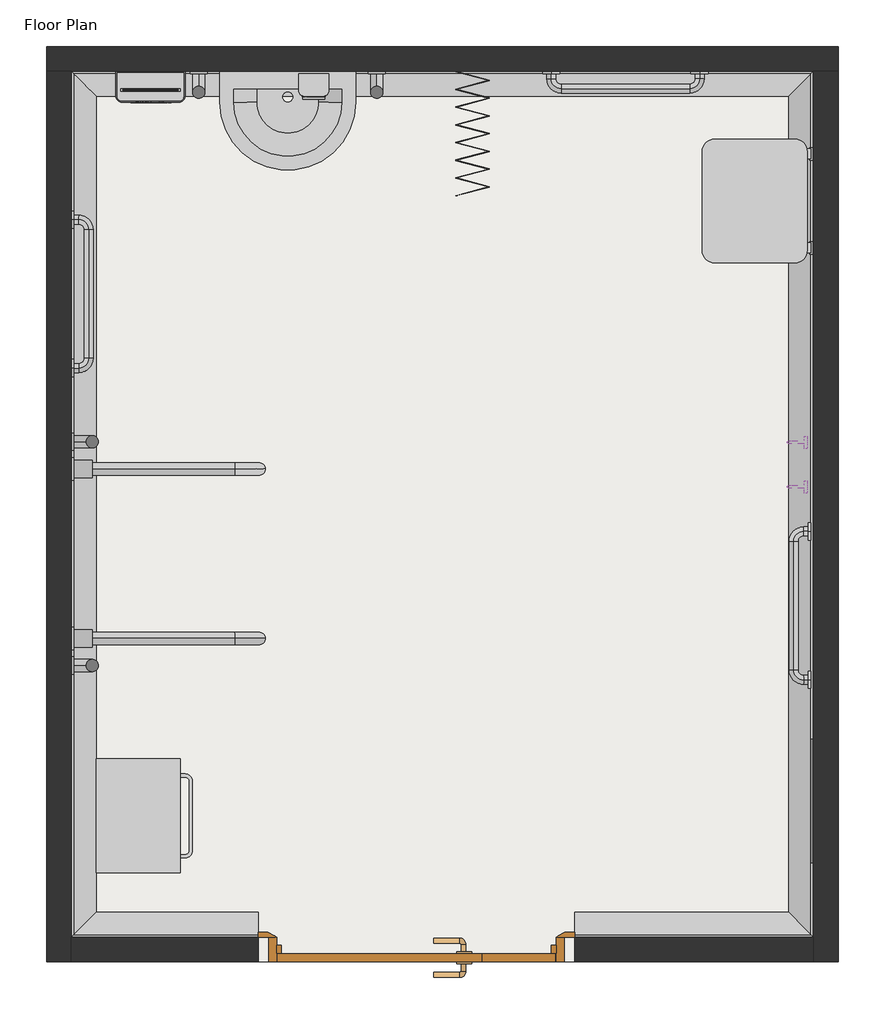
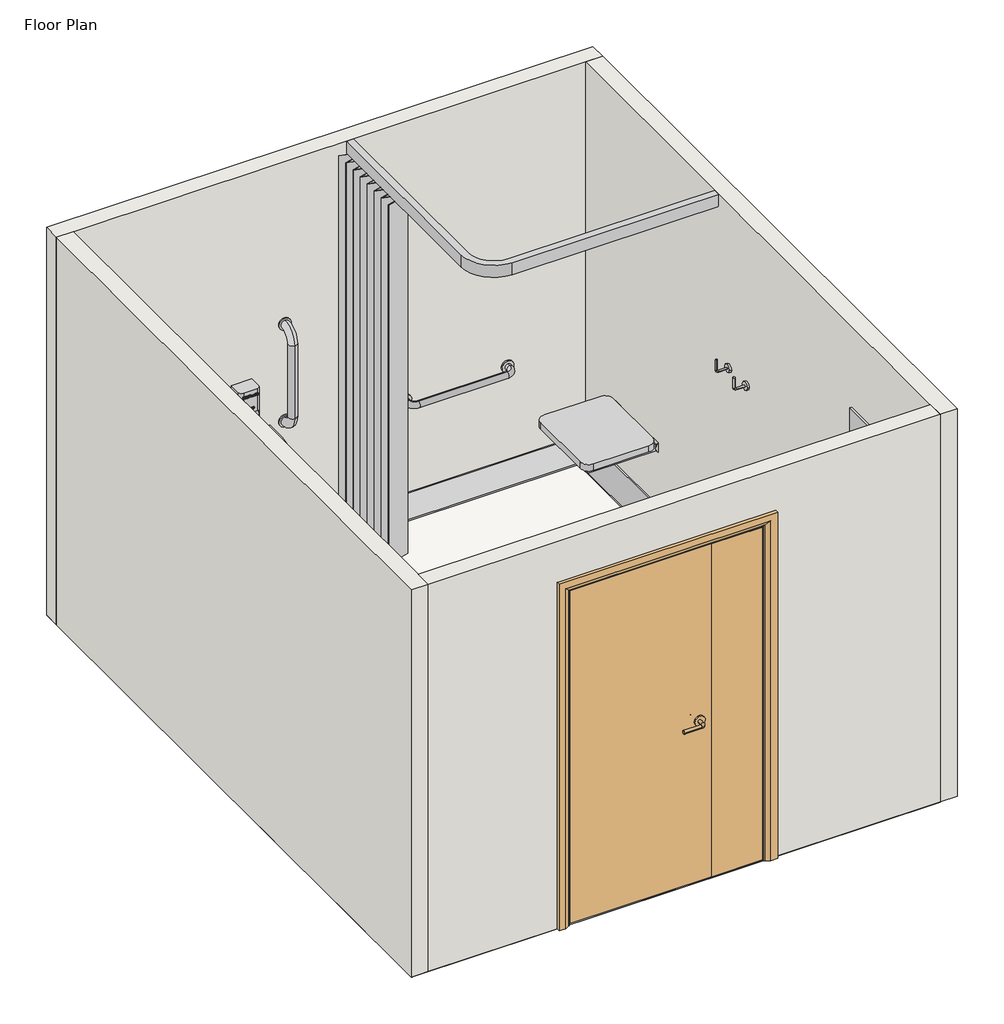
# One storey, incomplete: 13 proxies, 5 furniture elements, 4 flow terminals, 4 walls, 1 door, 1 slab.
"""IFC4 building model written with IfcOpenShell, lengths in millimetres."""

from ifc_helpers import new_model, si_unit, frame, origin, place, context, project, spatial, polyline, circle_curve, ellipse_curve, outline, extrude, faceted_brep, transform, mapped, element, save
from ifc_brep_helpers import plane_surface, revolved_surface, advanced_brep
from components import generic_models_b4c89709, support_metal_circular_standard_a779fbb7, type_1_3e4eb001, type_1_f4c963d5, type_1_f275d547, type_1_04eb1ea4, bimhealth_door_and_half_1210x2110mm_sgl_swing_43a15386, flow_terminal_9bf15598, plumbing_fixtures_grab_rail_horizontal_metal_grab_rail_f73a8c0c, furniture_29951476, furniture_af9008cf, furniture_46abfedd, furniture_166ce8d1, furniture_26d36cfe

model = new_model("IFC4")

# Units and contexts
model_context = context("Model", 3, world=origin())
ifc_project = project(units=[si_unit("LENGTHUNIT", "METRE", prefix="MILLI")], contexts=[model_context])

# Site, building, storey
site = spatial("IfcSite", under=ifc_project)
building = spatial("IfcBuilding", under=site)
storey = spatial("IfcBuildingStorey", under=building, Name="Floor Plan", Elevation=0.0)

# Proxies
placement = place(None, origin())
element("IfcBuildingElementProxy", 1, Name="Wall Sweeps", at=placement, inside=storey, context=model_context, shape_type="AdvancedBrep", body=[
    advanced_brep(
    [(3488.7393887, 1464.0194545, 0.0), (3488.7393887, 1464.0194545, 100.0), (3478.7393887, 1474.0194545, 100.0), (3388.7393887, 1564.0194545, 10.0), (3388.7393887, 1564.0194545, 0.0), (3488.7393887, 4964.0194545, 0.0), (3388.7393887, 4864.0194545, 0.0), (3388.7393887, 4864.0194545, 10.0), (3478.7393887, 4954.0194545, 100.0), (3488.7393887, 4964.0194545, 100.0)],
    [
        (0, 1),
        (1, 2),
        (2, 3, ellipse_curve(frame((3388.7393887, 1564.0194545, 100.0), z_axis=(0.7071067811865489, 0.7071067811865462, 0.0), x_axis=(-0.7071067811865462, 0.7071067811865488, 0.0)), 127.2792206, 90.0)),
        (3, 4),
        (4, 0),
        (5, 6),
        (6, 7),
        (7, 8, ellipse_curve(frame((3388.7393887, 4864.0194545, 100.0), z_axis=(0.7071067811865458, -0.7071067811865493, 0.0), x_axis=(0.7071067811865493, 0.7071067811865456, 0.0)), 127.2792206, 90.0)),
        (8, 9),
        (9, 5),
        (4, 6),
        (5, 0),
        (3, 7),
        (2, 8),
        (1, 9),
    ],
    [
        plane_surface(frame((3488.7393887, 1464.0194545, -304.8), z_axis=(-0.7071067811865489, -0.7071067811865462, 0.0), x_axis=(-0.7071067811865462, 0.7071067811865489, 0.0))),
        plane_surface(frame((3488.7393887, 4964.0194545, -304.8), z_axis=(-0.7071067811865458, 0.7071067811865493, 0.0), x_axis=(-0.7071067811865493, -0.7071067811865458, 0.0))),
        plane_surface(frame((3388.7393887, 1564.0194545, 0.0), z_axis=(0.0, 0.0, -1.0), x_axis=(0.0, 1.0, 0.0))),
        plane_surface(frame((3388.7393887, 1564.0194545, 10.0), z_axis=(-1.0, 0.0, 0.0), x_axis=(0.0, 1.0, 0.0))),
        revolved_surface(polyline([(3298.7393887, 4954.0194545, 100.0), (3298.7393887, 1474.0194545, 100.0)]), (3388.7393887, 1464.0194545, 100.0), (0.0, 1.0, 0.0)),
        plane_surface(frame((3488.7393887, 1464.0194545, 100.0), z_axis=(0.0, 0.0, 1.0), x_axis=(0.0, 1.0, 0.0))),
        plane_surface(frame((3488.7393887, 1464.0194545, 0.0), z_axis=(1.0, 0.0, 0.0), x_axis=(0.0, 1.0, 0.0))),
    ],
    [
        (0, [[1, 2, 3, 4, 5]]),
        (1, [[6, 7, 8, 9, 10]]),
        (2, [[-5, 11, -6, 12]]),
        (3, [[-4, 13, -7, -11]]),
        (4, [[-3, 14, -8, -13]]),
        (5, [[-2, 15, -9, -14]]),
        (6, [[-1, -12, -10, -15]]),
    ],
),
])
element("IfcBuildingElementProxy", 2, Name="Wall Sweeps", at=placement, inside=storey, context=model_context, shape_type="AdvancedBrep", body=[
    advanced_brep(
    [(488.7393887, 4964.0194545, 0.0), (588.7393887, 4864.0194545, 0.0), (588.7393887, 4864.0194545, 10.0), (498.7393887, 4954.0194545, 100.0), (488.7393887, 4964.0194545, 100.0), (3488.7393887, 4964.0194545, 0.0), (3488.7393887, 4964.0194545, 100.0), (3478.7393887, 4954.0194545, 100.0), (3388.7393887, 4864.0194545, 10.0), (3388.7393887, 4864.0194545, 0.0)],
    [
        (0, 1),
        (1, 2),
        (2, 3, ellipse_curve(frame((588.7393887, 4864.0194545, 100.0), z_axis=(0.7071067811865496, 0.7071067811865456, 0.0), x_axis=(0.7071067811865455, -0.7071067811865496, 0.0)), 127.2792206, 90.0)),
        (3, 4),
        (4, 0),
        (5, 6),
        (6, 7),
        (7, 8, ellipse_curve(frame((3388.7393887, 4864.0194545, 100.0), z_axis=(-0.7071067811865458, 0.7071067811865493, 0.0), x_axis=(0.7071067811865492, 0.7071067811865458, 0.0)), 127.2792206, 90.0)),
        (8, 9),
        (9, 5),
        (0, 5),
        (9, 1),
        (8, 2),
        (7, 3),
        (6, 4),
    ],
    [
        plane_surface(frame((488.7393887, 4964.0194545, 304.8), z_axis=(-0.7071067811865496, -0.7071067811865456, 0.0), x_axis=(0.7071067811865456, -0.7071067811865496, 0.0))),
        plane_surface(frame((3488.7393887, 4964.0194545, 304.8), z_axis=(0.7071067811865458, -0.7071067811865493, 0.0), x_axis=(-0.7071067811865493, -0.7071067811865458, 0.0))),
        plane_surface(frame((488.7393887, 4964.0194545, 0.0), z_axis=(0.0, 0.0, -1.0), x_axis=(1.0, 0.0, 0.0))),
        plane_surface(frame((588.7393887, 4864.0194545, 0.0), z_axis=(0.0, -1.0, 0.0), x_axis=(1.0, 0.0, 0.0))),
        revolved_surface(polyline([(3478.7393887, 4774.0194545, 100.0), (498.7393887, 4774.0194545, 100.0)]), (488.7393887, 4864.0194545, 100.0), (1.0, 0.0, 0.0)),
        plane_surface(frame((498.7393887, 4954.0194545, 100.0), z_axis=(0.0, 0.0, 1.0), x_axis=(1.0, 0.0, 0.0))),
        plane_surface(frame((488.7393887, 4964.0194545, 100.0), z_axis=(0.0, 1.0, 0.0), x_axis=(1.0, 0.0, 0.0))),
    ],
    [
        (0, [[1, 2, 3, 4, 5]]),
        (1, [[6, 7, 8, 9, 10]]),
        (2, [[-1, 11, -10, 12]]),
        (3, [[-2, -12, -9, 13]]),
        (4, [[-3, -13, -8, 14]]),
        (5, [[-4, -14, -7, 15]]),
        (6, [[-5, -15, -6, -11]]),
    ],
),
])
element("IfcBuildingElementProxy", 3, Name="Wall Sweeps", at=placement, inside=storey, context=model_context, shape_type="AdvancedBrep", body=[
    advanced_brep(
    [(488.7393887, 4964.0194545, 0.0), (488.7393887, 4964.0194545, 100.0), (498.7393887, 4954.0194545, 100.0), (588.7393887, 4864.0194545, 10.0), (588.7393887, 4864.0194545, 0.0), (488.7393887, 1464.0194545, 0.0), (588.7393887, 1564.0194545, 0.0), (588.7393887, 1564.0194545, 10.0), (498.7393887, 1474.0194545, 100.0), (488.7393887, 1464.0194545, 100.0)],
    [
        (0, 1),
        (1, 2),
        (2, 3, ellipse_curve(frame((588.7393887, 4864.0194545, 100.0), z_axis=(-0.7071067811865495, -0.7071067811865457, 0.0), x_axis=(0.7071067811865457, -0.7071067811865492, 0.0)), 127.2792206, 90.0)),
        (3, 4),
        (4, 0),
        (5, 6),
        (6, 7),
        (7, 8, ellipse_curve(frame((588.7393887, 1564.0194545, 100.0), z_axis=(-0.7071067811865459, 0.7071067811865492, 0.0), x_axis=(-0.7071067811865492, -0.7071067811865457, 0.0)), 127.2792206, 90.0)),
        (8, 9),
        (9, 5),
        (0, 5),
        (9, 1),
        (8, 2),
        (7, 3),
        (6, 4),
    ],
    [
        plane_surface(frame((488.7393887, 4964.0194545, -304.8), z_axis=(0.7071067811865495, 0.7071067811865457, 0.0), x_axis=(0.7071067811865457, -0.7071067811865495, 0.0))),
        plane_surface(frame((488.7393887, 1464.0194545, -304.8), z_axis=(0.7071067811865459, -0.7071067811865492, 0.0), x_axis=(0.7071067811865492, 0.7071067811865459, 0.0))),
        plane_surface(frame((488.7393887, 4964.0194545, 0.0), z_axis=(-1.0, 0.0, 0.0), x_axis=(0.0, -1.0, 0.0))),
        plane_surface(frame((488.7393887, 4964.0194545, 100.0), z_axis=(0.0, 0.0, 1.0), x_axis=(0.0, -1.0, 0.0))),
        revolved_surface(polyline([(678.7393887, 1474.0194545, 100.0), (678.7393887, 4954.0194545, 100.0)]), (588.7393887, 4964.0194545, 100.0), (0.0, -1.0, 0.0)),
        plane_surface(frame((588.7393887, 4864.0194545, 10.0), z_axis=(1.0, 0.0, 0.0), x_axis=(0.0, -1.0, 0.0))),
        plane_surface(frame((588.7393887, 4864.0194545, 0.0), z_axis=(0.0, 0.0, -1.0), x_axis=(0.0, -1.0, 0.0))),
    ],
    [
        (0, [[1, 2, 3, 4, 5]]),
        (1, [[6, 7, 8, 9, 10]]),
        (2, [[-1, 11, -10, 12]]),
        (3, [[-2, -12, -9, 13]]),
        (4, [[-3, -13, -8, 14]]),
        (5, [[-4, -14, -7, 15]]),
        (6, [[-5, -15, -6, -11]]),
    ],
),
])
element("IfcBuildingElementProxy", 4, Name="Wall Sweeps", at=placement, inside=storey, context=model_context, shape_type="AdvancedBrep", body=[
    advanced_brep(
    [(2523.7393887, 1464.0194545, 0.0), (2523.7393887, 1464.0194545, 100.0), (2523.7393887, 1474.0194545, 100.0), (2523.7393887, 1564.0194545, 10.0), (2523.7393887, 1564.0194545, 0.0), (3488.7393887, 1464.0194545, 0.0), (3388.7393887, 1564.0194545, 0.0), (3388.7393887, 1564.0194545, 10.0), (3478.7393887, 1474.0194545, 100.0), (3488.7393887, 1464.0194545, 100.0)],
    [
        (0, 1),
        (1, 2),
        (2, 3, circle_curve(frame((2523.7393887, 1564.0194545, 100.0), z_axis=(1.0, 0.0, 0.0), x_axis=(0.0, 1.0, 0.0)), 90.0)),
        (3, 4),
        (4, 0),
        (5, 6),
        (6, 7),
        (7, 8, ellipse_curve(frame((3388.7393887, 1564.0194545, 100.0), z_axis=(-0.7071067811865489, -0.7071067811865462, 0.0), x_axis=(0.7071067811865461, -0.7071067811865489, 0.0)), 127.2792206, 90.0)),
        (8, 9),
        (9, 5),
        (0, 5),
        (9, 1),
        (8, 2),
        (7, 3),
        (6, 4),
    ],
    [
        plane_surface(frame((2523.7393887, 1464.0194545, -100.4987562), z_axis=(-1.0, 0.0, 0.0), x_axis=(0.0, 1.0, 0.0))),
        plane_surface(frame((3488.7393887, 1464.0194545, -304.8), z_axis=(0.7071067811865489, 0.7071067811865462, 0.0), x_axis=(-0.7071067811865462, 0.7071067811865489, 0.0))),
        plane_surface(frame((2523.7393887, 1464.0194545, 0.0), z_axis=(0.0, -1.0, 0.0), x_axis=(1.0, 0.0, 0.0))),
        plane_surface(frame((2523.7393887, 1464.0194545, 100.0), z_axis=(0.0, 0.0, 1.0), x_axis=(1.0, 0.0, 0.0))),
        revolved_surface(polyline([(3478.7393887, 1654.0194545, 100.0), (2523.7393887, 1654.0194545, 100.0)]), (2523.7393887, 1564.0194545, 100.0), (1.0, 0.0, 0.0)),
        plane_surface(frame((2523.7393887, 1564.0194545, 10.0), z_axis=(0.0, 1.0, 0.0), x_axis=(1.0, 0.0, 0.0))),
        plane_surface(frame((2523.7393887, 1564.0194545, 0.0), z_axis=(0.0, 0.0, -1.0), x_axis=(1.0, 0.0, 0.0))),
    ],
    [
        (0, [[1, 2, 3, 4, 5]]),
        (1, [[6, 7, 8, 9, 10]]),
        (2, [[-1, 11, -10, 12]]),
        (3, [[-2, -12, -9, 13]]),
        (4, [[-3, -13, -8, 14]]),
        (5, [[-4, -14, -7, 15]]),
        (6, [[-5, -15, -6, -11]]),
    ],
),
    advanced_brep(
    [(488.7393887, 1464.0194545, 0.0), (488.7393887, 1464.0194545, 100.0), (498.7393887, 1474.0194545, 100.0), (588.7393887, 1564.0194545, 10.0), (588.7393887, 1564.0194545, 0.0), (1243.7393887, 1464.0194545, 0.0), (1243.7393887, 1564.0194545, 0.0), (1243.7393887, 1564.0194545, 10.0), (1243.7393887, 1474.0194545, 100.0), (1243.7393887, 1464.0194545, 100.0)],
    [
        (0, 1),
        (1, 2),
        (2, 3, ellipse_curve(frame((588.7393887, 1564.0194545, 100.0), z_axis=(0.7071067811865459, -0.7071067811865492, 0.0), x_axis=(0.707106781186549, 0.7071067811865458, 0.0)), 127.2792206, 90.0)),
        (3, 4),
        (4, 0),
        (5, 6),
        (6, 7),
        (7, 8, circle_curve(frame((1243.7393887, 1564.0194545, 100.0), z_axis=(-1.0, 0.0, 0.0), x_axis=(0.0, 1.0, 0.0)), 90.0)),
        (8, 9),
        (9, 5),
        (0, 5),
        (9, 1),
        (8, 2),
        (7, 3),
        (6, 4),
    ],
    [
        plane_surface(frame((488.7393887, 1464.0194545, -304.8), z_axis=(-0.7071067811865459, 0.7071067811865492, 0.0), x_axis=(0.7071067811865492, 0.7071067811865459, 0.0))),
        plane_surface(frame((1243.7393887, 1464.0194545, -100.4987562), z_axis=(1.0, 0.0, 0.0), x_axis=(0.0, 1.0, 0.0))),
        plane_surface(frame((488.7393887, 1464.0194545, 0.0), z_axis=(0.0, -1.0, 0.0), x_axis=(1.0, 0.0, 0.0))),
        plane_surface(frame((488.7393887, 1464.0194545, 100.0), z_axis=(0.0, 0.0, 1.0), x_axis=(1.0, 0.0, 0.0))),
        revolved_surface(polyline([(1243.7393887, 1654.0194545, 100.0), (498.7393887, 1654.0194545, 100.0)]), (488.7393887, 1564.0194545, 100.0), (1.0, 0.0, 0.0)),
        plane_surface(frame((588.7393887, 1564.0194545, 10.0), z_axis=(0.0, 1.0, 0.0), x_axis=(1.0, 0.0, 0.0))),
        plane_surface(frame((588.7393887, 1564.0194545, 0.0), z_axis=(0.0, 0.0, -1.0), x_axis=(1.0, 0.0, 0.0))),
    ],
    [
        (0, [[1, 2, 3, 4, 5]]),
        (1, [[6, 7, 8, 9, 10]]),
        (2, [[-1, 11, -10, 12]]),
        (3, [[-2, -12, -9, 13]]),
        (4, [[-3, -13, -8, 14]]),
        (5, [[-4, -14, -7, 15]]),
        (6, [[-5, -15, -6, -11]]),
    ],
),
])
generic_models_shape = generic_models_b4c89709(model_context)
element("IfcBuildingElementProxy", 5, Name="BIMHealth-Seat_Shower-LOD2A-v1 : BIMHealth-Seat_Shower-LOD2A-v1", ObjectType="BIMHealth-Seat_Shower-LOD2A-v1 : BIMHealth-Seat_Shower-LOD2A-v1", at=placement, inside=storey, context=model_context, shape_type="MappedRepresentation", body=[
    mapped(generic_models_shape, transform((3588.7393887, 4190.055869, 0.0), x_axis=(0.0, 1.0, 0.0), y_axis=(-1.0, 0.0, 0.0), z_axis=(0.0, 0.0, 1.0))),
])
support_metal_circular_standard_shape = support_metal_circular_standard_a779fbb7(model_context)
element("IfcBuildingElementProxy", 6, Name="Support-Metal-Circular : Standard", ObjectType="Support-Metal-Circular : Standard", at=placement, inside=storey, context=model_context, shape_type="MappedRepresentation", body=[
    mapped(support_metal_circular_standard_shape, transform((3388.7393887, 3284.0194545, 1500.0), x_axis=(0.0, -1.0, 0.0), y_axis=(1.0, 0.0, 0.0), z_axis=(0.0, 0.0, 1.0))),
])
element("IfcBuildingElementProxy", 7, Name="Support-Metal-Circular : Standard", ObjectType="Support-Metal-Circular : Standard", at=placement, inside=storey, context=model_context, shape_type="MappedRepresentation", body=[
    mapped(support_metal_circular_standard_shape, transform((3388.7393887, 3464.0194545, 1500.0), x_axis=(0.0, -1.0, 0.0), y_axis=(1.0, 0.0, 0.0), z_axis=(0.0, 0.0, 1.0))),
])
type_1_shape = type_1_3e4eb001(model_context)
element("IfcBuildingElementProxy", 8, Name="BIMHealth-Grab_Rail_Vertical-LOD2A-v1 : Type 1", ObjectType="BIMHealth-Grab_Rail_Vertical-LOD2A-v1 : Type 1", at=placement, inside=storey, context=model_context, shape_type="MappedRepresentation", body=[
    mapped(type_1_shape, transform((438.7393887, 2686.5194545, 0.0), x_axis=(0.0, -1.0, 0.0), y_axis=(1.0, 0.0, 0.0), z_axis=(0.0, 0.0, 1.0))),
])
element("IfcBuildingElementProxy", 9, Name="BIMHealth-Grab_Rail_Vertical-LOD2A-v1 : Type 1", ObjectType="BIMHealth-Grab_Rail_Vertical-LOD2A-v1 : Type 1", at=placement, inside=storey, context=model_context, shape_type="MappedRepresentation", body=[
    mapped(type_1_shape, transform((1128.7393887, 5014.0194545, 0.0), x_axis=(-1.0, 0.0, 0.0), y_axis=(0.0, -1.0, 0.0), z_axis=(0.0, 0.0, 1.0))),
])
type_1_2_shape = type_1_f4c963d5(model_context)
element("IfcBuildingElementProxy", 10, Name="BIMHealth-Grab_Rail_Vertical-LOD2A-v1 : Type 1", ObjectType="BIMHealth-Grab_Rail_Vertical-LOD2A-v1 : Type 1", at=placement, inside=storey, context=model_context, shape_type="MappedRepresentation", body=[
    mapped(type_1_2_shape, transform((438.7393887, 3341.5194545, 0.0), x_axis=(0.0, 1.0, 0.0), y_axis=(-1.0, 0.0, 0.0), z_axis=(0.0, 0.0, 1.0))),
])
element("IfcBuildingElementProxy", 11, Name="BIMHealth-Grab_Rail_Vertical-LOD2A-v1 : Type 1", ObjectType="BIMHealth-Grab_Rail_Vertical-LOD2A-v1 : Type 1", at=placement, inside=storey, context=model_context, shape_type="MappedRepresentation", body=[
    mapped(type_1_2_shape, transform((1598.7393887, 5014.0194545, 0.0), x_axis=(1.0, 0.0, 0.0), y_axis=(0.0, 1.0, 0.0), z_axis=(0.0, 0.0, 1.0))),
])
type_1_3_shape = type_1_f275d547(model_context)
element("IfcBuildingElementProxy", 12, Name="BIMHealth-Grab_Rail_Drop_Down-LOD2A-v1 : Type 1", ObjectType="BIMHealth-Grab_Rail_Drop_Down-LOD2A-v1 : Type 1", at=placement, inside=storey, context=model_context, shape_type="MappedRepresentation", body=[
    mapped(type_1_3_shape, transform((438.7393887, 3231.5194545, 0.0), x_axis=(0.0, 1.0, 0.0), y_axis=(-1.0, 0.0, 0.0), z_axis=(0.0, 0.0, 1.0))),
])
type_1_4_shape = type_1_04eb1ea4(model_context)
element("IfcBuildingElementProxy", 13, Name="BIMHealth-Grab_Rail_Drop_Down-LOD2A-v1 : Type 1", ObjectType="BIMHealth-Grab_Rail_Drop_Down-LOD2A-v1 : Type 1", at=placement, inside=storey, context=model_context, shape_type="MappedRepresentation", body=[
    mapped(type_1_4_shape, transform((438.7393887, 2796.5194545, 0.0), x_axis=(0.0, -1.0, 0.0), y_axis=(1.0, 0.0, 0.0), z_axis=(0.0, 0.0, 1.0))),
])

# Door
bimhealth_door_and_half_1210x2110mm_sgl_swing_shape = bimhealth_door_and_half_1210x2110mm_sgl_swing_43a15386(model_context)
element("IfcDoor", 14, ObjectType="BIMHealth-Door_and_half : 1210x2110mm-Sgl_Swing", at=placement, inside=storey, context=model_context, shape_type="MappedRepresentation", body=[
    mapped(bimhealth_door_and_half_1210x2110mm_sgl_swing_shape, transform((2122.7393887, 1414.0194545, 0.0), x_axis=(-1.0, 0.0, 0.0), y_axis=(0.0, -1.0, 0.0), z_axis=(0.0, 0.0, 1.0))),
])

# Flow terminals
flow_terminal_shape = flow_terminal_9bf15598(model_context)
element("IfcFlowTerminal", 15, ObjectType="BIMHealth-Wash_basin_Doc_M-LOD2A-v1 : BIMHealth-Wash_basin_Doc_M-LOD2A-v1", at=placement, inside=storey, context=model_context, shape_type="MappedRepresentation", body=[
    mapped(flow_terminal_shape, transform((1638.7393887, 4964.0194545, 500.0), x_axis=(-1.0000000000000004, 0.0, 0.0), y_axis=(0.0, -1.0000000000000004, 0.0), z_axis=(0.0, 0.0, 1.0))),
])
plumbing_fixtures_grab_rail_horizontal_metal_grab_rail_shape = plumbing_fixtures_grab_rail_horizontal_metal_grab_rail_f73a8c0c(model_context)
element("IfcFlowTerminal", 16, ObjectType="Plumbing_Fixtures_Grab_Rail_Horizontal : Metal_Grab_Rail", at=placement, inside=storey, context=model_context, shape_type="MappedRepresentation", body=[
    mapped(plumbing_fixtures_grab_rail_horizontal_metal_grab_rail_shape, transform((488.7393887, 3208.223788, 0.0), x_axis=(0.0, -1.0, 0.0), y_axis=(1.0, 0.0, 0.0), z_axis=(0.0, 0.0, 1.0))),
])
element("IfcFlowTerminal", 17, ObjectType="Plumbing_Fixtures_Grab_Rail_Horizontal : Metal_Grab_Rail", at=placement, inside=storey, context=model_context, shape_type="MappedRepresentation", body=[
    mapped(plumbing_fixtures_grab_rail_horizontal_metal_grab_rail_shape, transform((1872.9437222, 4964.0194545, 0.0), x_axis=(-1.0000000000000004, 0.0, 0.0), y_axis=(0.0, -1.0000000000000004, 0.0), z_axis=(0.0, 0.0, 1.0))),
])
element("IfcFlowTerminal", 18, ObjectType="Plumbing_Fixtures_Grab_Rail_Horizontal : Metal_Grab_Rail", at=placement, inside=storey, context=model_context, shape_type="MappedRepresentation", body=[
    mapped(plumbing_fixtures_grab_rail_horizontal_metal_grab_rail_shape, transform((3478.7393887, 3659.815121, 0.0), x_axis=(0.0, 1.0, 0.0), y_axis=(-1.0, 0.0, 0.0), z_axis=(0.0, 0.0, 1.0))),
])

# Furniture
furniture_shape = furniture_29951476(model_context)
element("IfcFurniture", 19, ObjectType="BIMHealth-Mirror_Consultation-LOD2A-v1 : BIMHealth-Mirror_Consultation-LOD2A-v1", at=placement, inside=storey, context=model_context, shape_type="MappedRepresentation", body=[
    mapped(furniture_shape, transform((3488.7393887, 2264.0194545, -199.8551713), x_axis=(0.0, -1.0, 0.0), y_axis=(1.0, 0.0, 0.0), z_axis=(0.0, 0.0, 1.0))),
])
furniture_2_shape = furniture_af9008cf(model_context)
element("IfcFurniture", 20, ObjectType="BIMHealth-Bin_Clinical_Foot_Operated-LOD2A-v1 : BIMHealth-Bin_Clinical_Foot_Operated-LOD2A-v1", at=placement, inside=storey, context=model_context, shape_type="MappedRepresentation", body=[
    mapped(furniture_2_shape, transform((598.7393887, 2174.0194545, 0.0), x_axis=(0.0, -1.0000000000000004, 0.0), y_axis=(1.0000000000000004, 0.0, 0.0), z_axis=(0.0, 0.0, 1.0))),
])
furniture_3_shape = furniture_46abfedd(model_context)
element("IfcFurniture", 21, ObjectType="BIMHealth-Curtain_Doc_M-LOD2A-v1 : BIMHealth-Curtain_Doc_M-LOD2A-v1", at=placement, inside=storey, context=model_context, shape_type="MappedRepresentation", body=[
    mapped(furniture_3_shape, transform((2088.7393887, 4964.0194545, 0.0), x_axis=(0.0, -1.0, 0.0), y_axis=(1.0, 0.0, 0.0), z_axis=(0.0, 0.0, 1.0))),
])
furniture_4_shape = furniture_166ce8d1(model_context)
element("IfcFurniture", 22, ObjectType="BIMHealth-Paper_Towel_Dispenser-LOD2A-v1 : BIMHealth-Paper_Towel_Dispenser-LOD2A-v1", at=placement, inside=storey, context=model_context, shape_type="MappedRepresentation", body=[
    mapped(furniture_4_shape, transform((668.7393887, 4964.0194545, -304.3123274), x_axis=(1.0000000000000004, 0.0, 0.0), y_axis=(0.0, 1.0000000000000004, 0.0), z_axis=(0.0, 0.0, 1.0))),
])
furniture_5_shape = furniture_26d36cfe(model_context)
element("IfcFurniture", 23, ObjectType="BIMHealth-Soap_Dispenser-LOD2A-v1 : BIMHealth-Soap_Dispenser-LOD2A-v1", at=placement, inside=storey, context=model_context, shape_type="MappedRepresentation", body=[
    mapped(furniture_5_shape, transform((1408.7393887, 4954.0194545, -290.4712325), x_axis=(0.9999999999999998, 0.0, 0.0), y_axis=(0.0, 0.9999999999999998, 0.0), z_axis=(0.0, 0.0, 1.0))),
])

# Slab
element("IfcSlab", 24, ObjectType="BIMHealth - Generic Floor", at=placement, inside=storey, context=model_context, shape_type="SweptSolid", body=[
    extrude(outline(polyline([(3488.7393887, 5064.0194545), (3488.7393887, 1364.0194545), (388.7393887, 1364.0194545), (388.7393887, 5064.0194545), (3488.7393887, 5064.0194545)])), frame((0.0, 0.0, -2.0), z_axis=(0.0, 0.0, 1.0), x_axis=(1.0, 0.0, 0.0)), (0.0, 0.0, 1.0), 2.0),
])

# Walls
element("IfcWall", 25, ObjectType="BIMHealth - Generic Wall", at=placement, inside=storey, context=model_context, shape_type="Brep", body=[
    faceted_brep([(3588.7393887, 1364.0194545, 0.0), (3588.7393887, 4964.0194545, 0.0), (3588.7393887, 4964.0194545, 2400.0), (3588.7393887, 1364.0194545, 2400.0), (3488.7393887, 1364.0194545, 0.0), (3488.7393887, 1364.0194545, 2400.0), (3488.7393887, 1464.0194545, 2400.0), (3488.7393887, 4964.0194545, 2400.0), (3488.7393887, 4964.0194545, 0.0), (3488.7393887, 1464.0194545, 0.0)], [[[0, 1, 2, 3]], [[4, 5, 6, 7, 8, 9]], [[1, 0, 4, 9, 8]], [[3, 2, 7, 6, 5]], [[0, 3, 5, 4]], [[2, 1, 8, 7]]]),
])
element("IfcWall", 26, ObjectType="BIMHealth - Generic Wall", at=placement, inside=storey, context=model_context, shape_type="Brep", body=[
    faceted_brep([(388.7393887, 4964.0194545, 0.0), (488.7393887, 4964.0194545, 0.0), (3488.7393887, 4964.0194545, 0.0), (3588.7393887, 4964.0194545, 0.0), (3588.7393887, 4964.0194545, 2400.0), (3488.7393887, 4964.0194545, 2400.0), (488.7393887, 4964.0194545, 2400.0), (388.7393887, 4964.0194545, 2400.0), (388.7393887, 5064.0194545, 0.0), (388.7393887, 5064.0194545, 2400.0), (3588.7393887, 5064.0194545, 2400.0), (3588.7393887, 5064.0194545, 0.0)], [[[0, 1, 2, 3, 4, 5, 6, 7]], [[8, 9, 10, 11]], [[3, 2, 1, 0, 8, 11]], [[7, 6, 5, 4, 10, 9]], [[0, 7, 9, 8]], [[4, 3, 11, 10]]]),
])
element("IfcWall", 27, ObjectType="BIMHealth - Generic Wall", at=placement, inside=storey, context=model_context, shape_type="Brep", body=[
    faceted_brep([(388.7393887, 4964.0194545, 0.0), (388.7393887, 1364.0194545, 0.0), (388.7393887, 1364.0194545, 2400.0), (388.7393887, 4964.0194545, 2400.0), (488.7393887, 4964.0194545, 0.0), (488.7393887, 4964.0194545, 2400.0), (488.7393887, 1464.0194545, 2400.0), (488.7393887, 1364.0194545, 2400.0), (488.7393887, 1364.0194545, 0.0), (488.7393887, 1464.0194545, 0.0)], [[[0, 1, 2, 3]], [[4, 5, 6, 7, 8, 9]], [[1, 0, 4, 9, 8]], [[3, 2, 7, 6, 5]], [[0, 3, 5, 4]], [[2, 1, 8, 7]]]),
])
element("IfcWall", 28, ObjectType="BIMHealth - Generic Wall", at=placement, inside=storey, context=model_context, shape_type="Brep", body=[
    faceted_brep([(3488.7393887, 1364.0194545, 2400.0), (488.7393887, 1364.0194545, 2400.0), (488.7393887, 1364.0194545, 0.0), (1243.7393887, 1364.0194545, 0.0), (1243.7393887, 1364.0194545, 2110.0), (2523.7393887, 1364.0194545, 2110.0), (2523.7393887, 1364.0194545, 0.0), (3488.7393887, 1364.0194545, 0.0), (488.7393887, 1464.0194545, 2400.0), (3488.7393887, 1464.0194545, 2400.0), (3488.7393887, 1464.0194545, 0.0), (2523.7393887, 1464.0194545, 0.0), (2523.7393887, 1464.0194545, 100.0), (2523.7393887, 1464.0194545, 2110.0), (1243.7393887, 1464.0194545, 2110.0), (1243.7393887, 1464.0194545, 100.0), (1243.7393887, 1464.0194545, 0.0), (488.7393887, 1464.0194545, 0.0)], [[[0, 1, 2, 3, 4, 5, 6, 7]], [[8, 9, 10, 11, 12, 13, 14, 15, 16, 17]], [[2, 17, 16, 3]], [[10, 7, 6, 11]], [[1, 0, 9, 8]], [[2, 1, 8, 17]], [[0, 7, 10, 9]], [[14, 4, 3, 16, 15]], [[4, 14, 13, 5]], [[5, 13, 12, 11, 6]]]),
])

save(model, "model.ifc")
